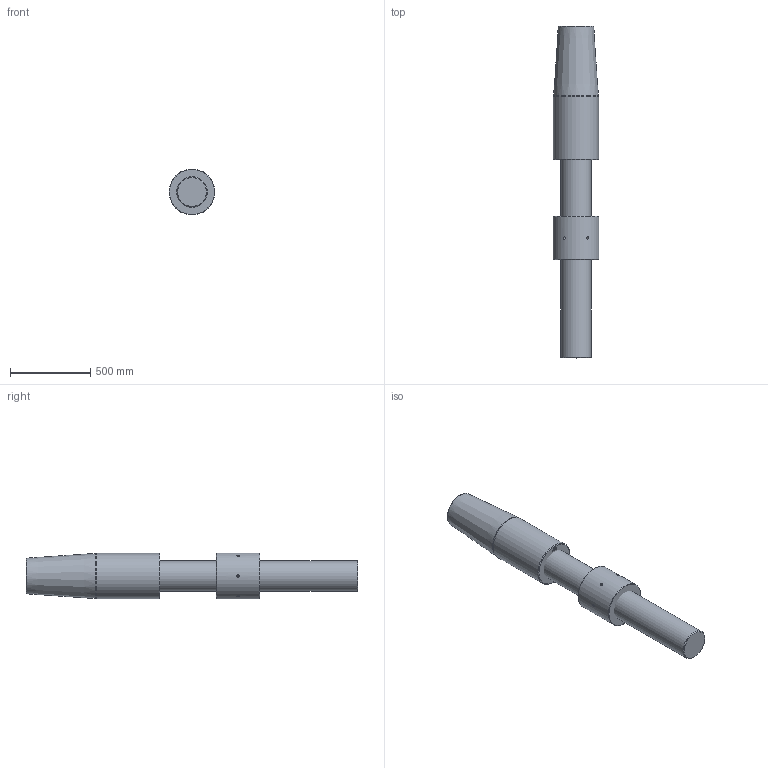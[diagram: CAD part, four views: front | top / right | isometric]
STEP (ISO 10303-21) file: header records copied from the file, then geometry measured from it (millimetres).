
FILE_DESCRIPTION(/* description */ (''),/* implementation_level */ '2;1');
FILE_NAME(/* name */ 'C:\Users\ranca\Desktop\CYM\ARRANGEMENT\CYM096 52 061 0.stp',/* time_stamp */ '2021-04-22T22:24:52+02:00',/* author */ ('ranca'),/* organization */ (''),/* preprocessor_version */ 'ST-DEVELOPER v16.13',/* originating_system */ 'Autodesk Inventor 2018',/* authorisation */ '');
FILE_SCHEMA (('AUTOMOTIVE_DESIGN { 1 0 10303 214 3 1 1 }'));
Length unit declared in the file: millimetre
Products named in the file (4): CYM096-52-061-0; CYM012-52-061-0_ROD; CYC096 52 065 0_CYL SOK_RH; CYM096-41-051-0
Assembly tree (3 placements, depth 2):
  CYM096-52-061-0
    CYM012-52-061-0_ROD
    CYC096 52 065 0_CYL SOK_RH
    CYM096-41-051-0
Bounding box: 285 x 2062 x 285 mm (x, y, z)
Volume: 105729183.1 mm3; surface area: 2109596.6 mm2
Topology: 3 solids, 3 shells, 550 faces, 1480 edges, 984 vertices
Faces by surface type: bspline 326, plane 202, cone 11, cylinder 9, torus 2
Full cylindrical faces by diameter (mm): 15 x6, 190 x1, 280 x1, 285 x1
Entity records: 18991 total; most frequent: CARTESIAN_POINT 7449, ORIENTED_EDGE 2902, EDGE_CURVE 1451, DIRECTION 1272, VERTEX_POINT 978, LINE 766, VECTOR 766, B_SPLINE_CURVE_WITH_KNOTS 662
